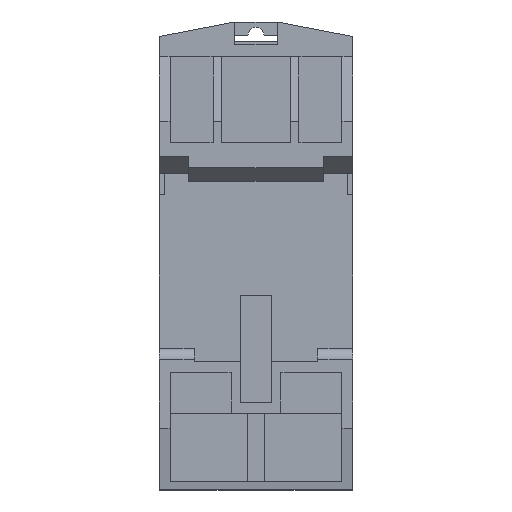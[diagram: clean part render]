
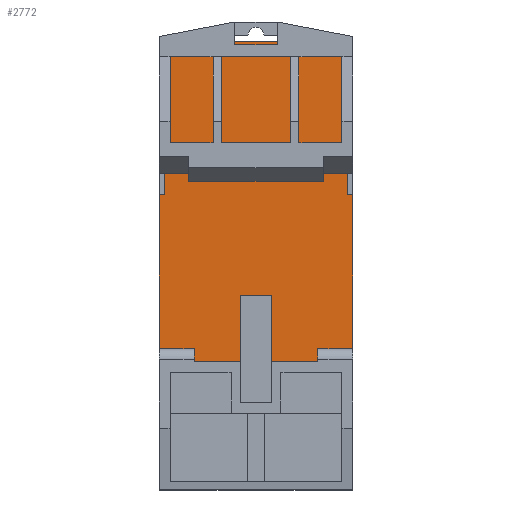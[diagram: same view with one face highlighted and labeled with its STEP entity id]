
A CAD part, front view. The second image highlights one B-rep face of the part: STEP entity #2772.
In plain terms, the highlighted planar face has unit normal (0, -1, 0).
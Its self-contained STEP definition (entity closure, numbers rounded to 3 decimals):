
#62 = CARTESIAN_POINT ( 'NONE',  ( -36., -35., -55. ) ) ;
#114 = DIRECTION ( 'NONE',  ( 0., 0., -1. ) ) ;
#503 = VERTEX_POINT ( 'NONE', #7895 ) ;
#667 = CARTESIAN_POINT ( 'NONE',  ( -1., -35., -55. ) ) ;
#747 = DIRECTION ( 'NONE',  ( 1., 0., 0. ) ) ;
#791 = DIRECTION ( 'NONE',  ( 0., 0., -1. ) ) ;
#828 = ORIENTED_EDGE ( 'NONE', *, *, #6666, .F. ) ;
#1018 = LINE ( 'NONE', #9904, #7493 ) ;
#1321 = VECTOR ( 'NONE', #6723, 1000. ) ;
#1390 = DIRECTION ( 'NONE',  ( 0., 0., -1. ) ) ;
#1497 = CARTESIAN_POINT ( 'NONE',  ( -1., -35., -55. ) ) ;
#1685 = EDGE_CURVE ( 'NONE', #8289, #8047, #3770, .T. ) ;
#2154 = CARTESIAN_POINT ( 'NONE',  ( -36., -35., -36.3 ) ) ;
#2314 = CARTESIAN_POINT ( 'NONE',  ( -1., -35., -55. ) ) ;
#2392 = ORIENTED_EDGE ( 'NONE', *, *, #18933, .F. ) ;
#2772 = ADVANCED_FACE ( 'NONE', ( #17086 ), #16307, .T. ) ;
#3006 = CARTESIAN_POINT ( 'NONE',  ( 0., -35., -83.5 ) ) ;
#3063 = CARTESIAN_POINT ( 'NONE',  ( -36., -35., -24. ) ) ;
#3099 = DIRECTION ( 'NONE',  ( -1., 0., 0. ) ) ;
#3348 = AXIS2_PLACEMENT_3D ( 'NONE', #8973, #4653, #114 ) ;
#3634 = CARTESIAN_POINT ( 'NONE',  ( -36., -35., -83.5 ) ) ;
#3770 = LINE ( 'NONE', #3634, #13910 ) ;
#4194 = VERTEX_POINT ( 'NONE', #62 ) ;
#4630 = LINE ( 'NONE', #3063, #17081 ) ;
#4653 = DIRECTION ( 'NONE',  ( 0., -1., 0. ) ) ;
#4889 = LINE ( 'NONE', #12480, #13181 ) ;
#4921 = EDGE_CURVE ( 'NONE', #13509, #10729, #11283, .T. ) ;
#4995 = CARTESIAN_POINT ( 'NONE',  ( 0., -35., -55. ) ) ;
#5003 = DIRECTION ( 'NONE',  ( 0., 0., -1. ) ) ;
#5237 = EDGE_CURVE ( 'NONE', #15651, #4194, #9167, .T. ) ;
#5297 = CARTESIAN_POINT ( 'NONE',  ( -36., -35., -83.5 ) ) ;
#5435 = CARTESIAN_POINT ( 'NONE',  ( 0., -35., -24. ) ) ;
#5598 = LINE ( 'NONE', #2154, #12506 ) ;
#5831 = ORIENTED_EDGE ( 'NONE', *, *, #7661, .F. ) ;
#6487 = ORIENTED_EDGE ( 'NONE', *, *, #17984, .T. ) ;
#6517 = VERTEX_POINT ( 'NONE', #5435 ) ;
#6666 = EDGE_CURVE ( 'NONE', #15651, #8583, #7224, .T. ) ;
#6723 = DIRECTION ( 'NONE',  ( 0., 0., -1. ) ) ;
#6824 = VECTOR ( 'NONE', #3099, 1000. ) ;
#6827 = DIRECTION ( 'NONE',  ( 1., 0., 0. ) ) ;
#7224 = LINE ( 'NONE', #7658, #10458 ) ;
#7341 = ORIENTED_EDGE ( 'NONE', *, *, #1685, .T. ) ;
#7493 = VECTOR ( 'NONE', #9840, 1000. ) ;
#7512 = DIRECTION ( 'NONE',  ( 0., 0., -1. ) ) ;
#7658 = CARTESIAN_POINT ( 'NONE',  ( -36., -35., -24. ) ) ;
#7661 = EDGE_CURVE ( 'NONE', #16999, #6517, #4630, .T. ) ;
#7671 = CARTESIAN_POINT ( 'NONE',  ( -36., -35., -24. ) ) ;
#7895 = CARTESIAN_POINT ( 'NONE',  ( -35., -35., -55. ) ) ;
#8047 = VERTEX_POINT ( 'NONE', #16094 ) ;
#8289 = VERTEX_POINT ( 'NONE', #15003 ) ;
#8583 = VERTEX_POINT ( 'NONE', #12743 ) ;
#8682 = VERTEX_POINT ( 'NONE', #13387 ) ;
#8812 = DIRECTION ( 'NONE',  ( 1., 0., 0. ) ) ;
#8973 = CARTESIAN_POINT ( 'NONE',  ( -36., -35., -83.5 ) ) ;
#8995 = VECTOR ( 'NONE', #7512, 1000. ) ;
#9167 = LINE ( 'NONE', #5297, #1321 ) ;
#9480 = LINE ( 'NONE', #1497, #8995 ) ;
#9840 = DIRECTION ( 'NONE',  ( 0., 0., 1. ) ) ;
#9904 = CARTESIAN_POINT ( 'NONE',  ( -15.1, -35., -83.5 ) ) ;
#10458 = VECTOR ( 'NONE', #8812, 1000. ) ;
#10729 = VERTEX_POINT ( 'NONE', #667 ) ;
#11018 = VERTEX_POINT ( 'NONE', #17611 ) ;
#11131 = EDGE_CURVE ( 'NONE', #8583, #8682, #16954, .T. ) ;
#11283 = LINE ( 'NONE', #2314, #16310 ) ;
#11578 = EDGE_CURVE ( 'NONE', #503, #4194, #18550, .T. ) ;
#11949 = CARTESIAN_POINT ( 'NONE',  ( -35., -35., -55. ) ) ;
#12480 = CARTESIAN_POINT ( 'NONE',  ( -35., -35., -55. ) ) ;
#12506 = VECTOR ( 'NONE', #6827, 1000. ) ;
#12584 = LINE ( 'NONE', #3006, #18568 ) ;
#12743 = CARTESIAN_POINT ( 'NONE',  ( -20.9, -35., -24. ) ) ;
#12831 = EDGE_CURVE ( 'NONE', #10729, #8047, #9480, .T. ) ;
#13032 = ORIENTED_EDGE ( 'NONE', *, *, #11578, .F. ) ;
#13181 = VECTOR ( 'NONE', #791, 1000. ) ;
#13387 = CARTESIAN_POINT ( 'NONE',  ( -20.9, -35., -36.3 ) ) ;
#13509 = VERTEX_POINT ( 'NONE', #4995 ) ;
#13702 = ORIENTED_EDGE ( 'NONE', *, *, #17840, .F. ) ;
#13910 = VECTOR ( 'NONE', #15169, 1000. ) ;
#13940 = CARTESIAN_POINT ( 'NONE',  ( -20.9, -35., -83.5 ) ) ;
#14915 = ORIENTED_EDGE ( 'NONE', *, *, #5237, .T. ) ;
#15003 = CARTESIAN_POINT ( 'NONE',  ( -35., -35., -83.5 ) ) ;
#15169 = DIRECTION ( 'NONE',  ( 1., 0., 0. ) ) ;
#15651 = VERTEX_POINT ( 'NONE', #7671 ) ;
#15664 = DIRECTION ( 'NONE',  ( -1., 0., 0. ) ) ;
#15784 = ORIENTED_EDGE ( 'NONE', *, *, #11131, .F. ) ;
#15813 = ORIENTED_EDGE ( 'NONE', *, *, #4921, .F. ) ;
#16077 = EDGE_LOOP ( 'NONE', ( #16371, #15813, #2392, #5831, #16475, #13702, #15784, #828, #14915, #13032, #6487, #7341 ) ) ;
#16094 = CARTESIAN_POINT ( 'NONE',  ( -1., -35., -83.5 ) ) ;
#16307 = PLANE ( 'NONE',  #3348 ) ;
#16310 = VECTOR ( 'NONE', #15664, 1000. ) ;
#16325 = EDGE_CURVE ( 'NONE', #11018, #16999, #1018, .T. ) ;
#16371 = ORIENTED_EDGE ( 'NONE', *, *, #12831, .F. ) ;
#16475 = ORIENTED_EDGE ( 'NONE', *, *, #16325, .F. ) ;
#16954 = LINE ( 'NONE', #13940, #19029 ) ;
#16999 = VERTEX_POINT ( 'NONE', #17458 ) ;
#17081 = VECTOR ( 'NONE', #747, 1000. ) ;
#17086 = FACE_OUTER_BOUND ( 'NONE', #16077, .T. ) ;
#17458 = CARTESIAN_POINT ( 'NONE',  ( -15.1, -35., -24. ) ) ;
#17611 = CARTESIAN_POINT ( 'NONE',  ( -15.1, -35., -36.3 ) ) ;
#17840 = EDGE_CURVE ( 'NONE', #8682, #11018, #5598, .T. ) ;
#17984 = EDGE_CURVE ( 'NONE', #503, #8289, #4889, .T. ) ;
#18550 = LINE ( 'NONE', #11949, #6824 ) ;
#18568 = VECTOR ( 'NONE', #1390, 1000. ) ;
#18933 = EDGE_CURVE ( 'NONE', #6517, #13509, #12584, .T. ) ;
#19029 = VECTOR ( 'NONE', #5003, 1000. ) ;
